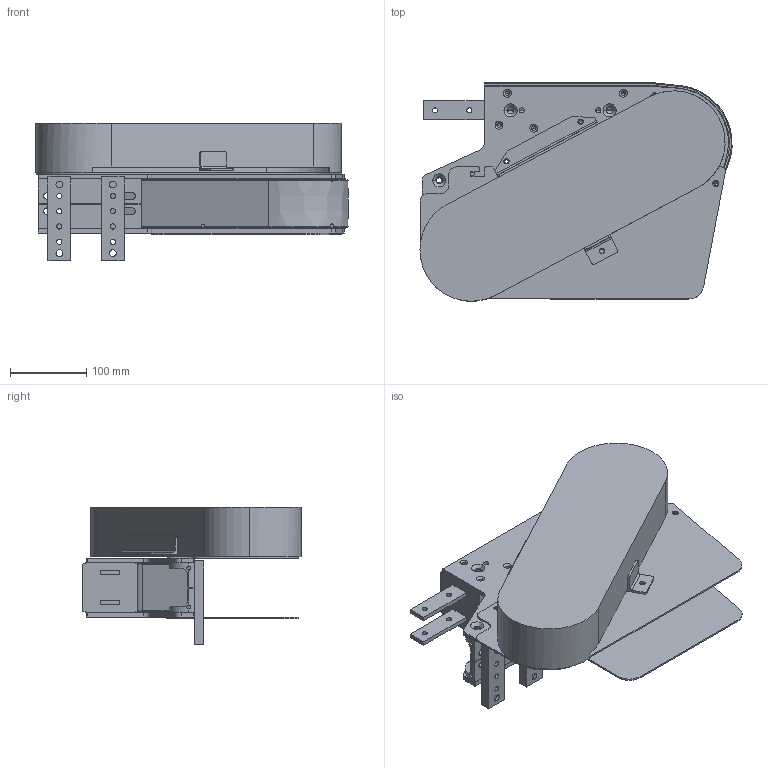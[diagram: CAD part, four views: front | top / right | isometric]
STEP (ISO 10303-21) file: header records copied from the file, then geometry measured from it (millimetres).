
FILE_DESCRIPTION (( 'STEP AP214' ), '1' );
FILE_NAME ('FSSD 0R TL.step', '2017-04-07T11:09:54', ( '' ), ( '' ), 'SwSTEP 2.0', 'SolidWorks 2016', '' );
FILE_SCHEMA (( 'AUTOMOTIVE_DESIGN' ));
Length unit declared in the file: millimetre
Products named in the file (1): FSSD 0R TL
Bounding box: 409.05 x 286.49 x 180.5 mm (x, y, z)
Volume: 3579002.4 mm3; surface area: 820874.1 mm2
Topology: 10 solids, 10 shells, 657 faces, 1796 edges, 1126 vertices
Faces by surface type: cylinder 342, plane 164, cone 132, bspline 15, torus 4
Entity records: 25693 total; most frequent: CARTESIAN_POINT 5544, DIRECTION 3590, ORIENTED_EDGE 3456, EDGE_CURVE 1728, AXIS2_PLACEMENT_3D 1363, VERTEX_POINT 1126, LINE 864, VECTOR 864
